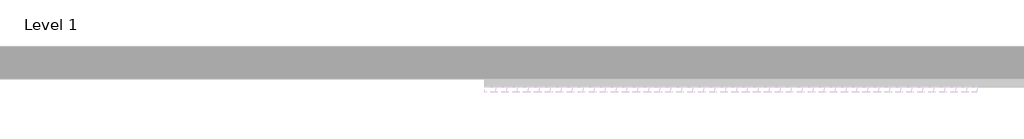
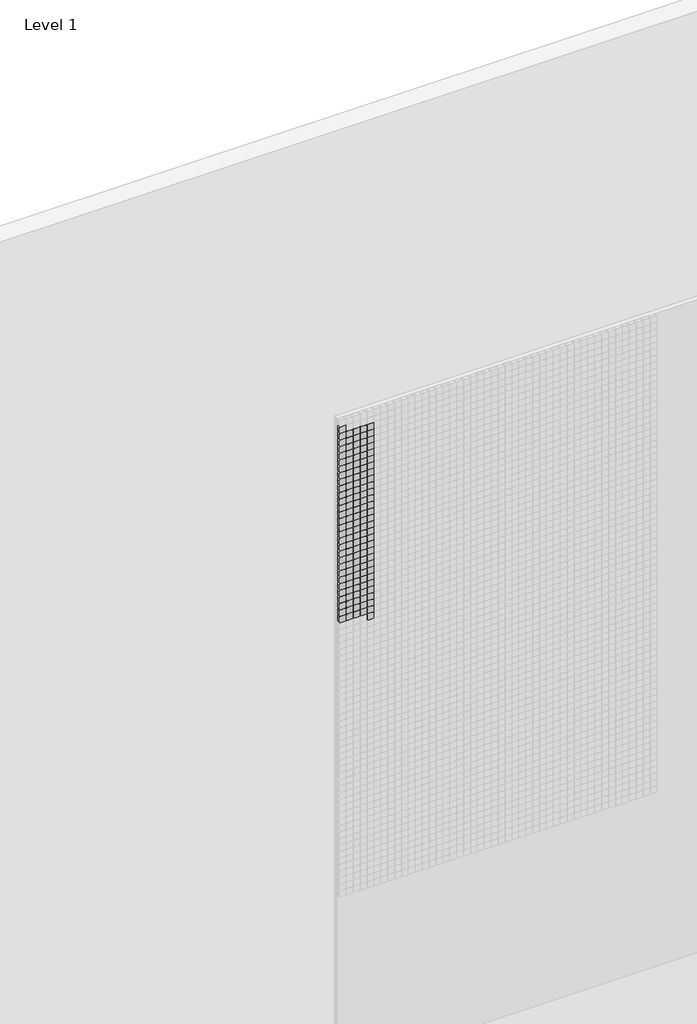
# One storey, part 4 of 71: 147 proxies.
"""IFC4 building model written with IfcOpenShell, lengths in millimetres."""

from ifc_helpers import new_model, si_unit, origin, place, context, project, spatial, transform, mapped, element, save
from components import generic_models_afde289c

model = new_model("IFC4")

# Units and contexts
model_context = context("Model", 3, world=origin())
ifc_project = project(units=[si_unit("LENGTHUNIT", "METRE", prefix="MILLI")], contexts=[model_context])

# Site, building, storey
site = spatial("IfcSite", under=ifc_project)
building = spatial("IfcBuilding", under=site)
storey = spatial("IfcBuildingStorey", under=building, Name="Level 1", Elevation=0.0)

# Proxies
placement = place(None, origin())
generic_models_shape = generic_models_afde289c(model_context)
element("IfcBuildingElementProxy", 1, Name="Pixel_M : Pixel_M", ObjectType="Pixel_M : Pixel_M", at=placement, inside=storey, context=model_context, shape_type="MappedRepresentation", body=[
    mapped(generic_models_shape, transform((4762.4280941, -75.0, 5916.3566215), x_axis=(1.0, 0.0, 0.0), y_axis=(0.0, 0.0, 1.0), z_axis=(0.0, -1.0, 0.0))),
])
element("IfcBuildingElementProxy", 2, Name="Pixel_M : Pixel_M", ObjectType="Pixel_M : Pixel_M", at=placement, inside=storey, context=model_context, shape_type="MappedRepresentation", body=[
    mapped(generic_models_shape, transform((4962.4280941, -75.0, 5866.3566215), x_axis=(1.0, 0.0, 0.0), y_axis=(0.0, 0.0, 1.0), z_axis=(0.0, -1.0, 0.0))),
])
element("IfcBuildingElementProxy", 3, Name="Pixel_M : Pixel_M", ObjectType="Pixel_M : Pixel_M", at=placement, inside=storey, context=model_context, shape_type="MappedRepresentation", body=[
    mapped(generic_models_shape, transform((4912.4280941, -75.0, 5866.3566215), x_axis=(1.0, 0.0, 0.0), y_axis=(0.0, 0.0, 1.0), z_axis=(0.0, -1.0, 0.0))),
])
element("IfcBuildingElementProxy", 4, Name="Pixel_M : Pixel_M", ObjectType="Pixel_M : Pixel_M", at=placement, inside=storey, context=model_context, shape_type="MappedRepresentation", body=[
    mapped(generic_models_shape, transform((4862.4280941, -75.0, 5866.3566215), x_axis=(1.0, 0.0, 0.0), y_axis=(0.0, 0.0, 1.0), z_axis=(0.0, -1.0, 0.0))),
])
element("IfcBuildingElementProxy", 5, Name="Pixel_M : Pixel_M", ObjectType="Pixel_M : Pixel_M", at=placement, inside=storey, context=model_context, shape_type="MappedRepresentation", body=[
    mapped(generic_models_shape, transform((4812.4280941, -75.0, 5866.3566215), x_axis=(1.0, 0.0, 0.0), y_axis=(0.0, 0.0, 1.0), z_axis=(0.0, -1.0, 0.0))),
])
element("IfcBuildingElementProxy", 6, Name="Pixel_M : Pixel_M", ObjectType="Pixel_M : Pixel_M", at=placement, inside=storey, context=model_context, shape_type="MappedRepresentation", body=[
    mapped(generic_models_shape, transform((4762.4280941, -75.0, 5866.3566215), x_axis=(1.0, 0.0, 0.0), y_axis=(0.0, 0.0, 1.0), z_axis=(0.0, -1.0, 0.0))),
])
element("IfcBuildingElementProxy", 7, Name="Pixel_M : Pixel_M", ObjectType="Pixel_M : Pixel_M", at=placement, inside=storey, context=model_context, shape_type="MappedRepresentation", body=[
    mapped(generic_models_shape, transform((4962.4280941, -75.0, 5816.3566215), x_axis=(1.0, 0.0, 0.0), y_axis=(0.0, 0.0, 1.0), z_axis=(0.0, -1.0, 0.0))),
])
element("IfcBuildingElementProxy", 8, Name="Pixel_M : Pixel_M", ObjectType="Pixel_M : Pixel_M", at=placement, inside=storey, context=model_context, shape_type="MappedRepresentation", body=[
    mapped(generic_models_shape, transform((4912.4280941, -75.0, 5816.3566215), x_axis=(1.0, 0.0, 0.0), y_axis=(0.0, 0.0, 1.0), z_axis=(0.0, -1.0, 0.0))),
])
element("IfcBuildingElementProxy", 9, Name="Pixel_M : Pixel_M", ObjectType="Pixel_M : Pixel_M", at=placement, inside=storey, context=model_context, shape_type="MappedRepresentation", body=[
    mapped(generic_models_shape, transform((4862.4280941, -75.0, 5816.3566215), x_axis=(1.0, 0.0, 0.0), y_axis=(0.0, 0.0, 1.0), z_axis=(0.0, -1.0, 0.0))),
])
element("IfcBuildingElementProxy", 10, Name="Pixel_M : Pixel_M", ObjectType="Pixel_M : Pixel_M", at=placement, inside=storey, context=model_context, shape_type="MappedRepresentation", body=[
    mapped(generic_models_shape, transform((4812.4280941, -75.0, 5816.3566215), x_axis=(1.0, 0.0, 0.0), y_axis=(0.0, 0.0, 1.0), z_axis=(0.0, -1.0, 0.0))),
])
element("IfcBuildingElementProxy", 11, Name="Pixel_M : Pixel_M", ObjectType="Pixel_M : Pixel_M", at=placement, inside=storey, context=model_context, shape_type="MappedRepresentation", body=[
    mapped(generic_models_shape, transform((4762.4280941, -75.0, 5816.3566215), x_axis=(1.0, 0.0, 0.0), y_axis=(0.0, 0.0, 1.0), z_axis=(0.0, -1.0, 0.0))),
])
element("IfcBuildingElementProxy", 12, Name="Pixel_M : Pixel_M", ObjectType="Pixel_M : Pixel_M", at=placement, inside=storey, context=model_context, shape_type="MappedRepresentation", body=[
    mapped(generic_models_shape, transform((4962.4280941, -75.0, 5766.3566215), x_axis=(1.0, 0.0, 0.0), y_axis=(0.0, 0.0, 1.0), z_axis=(0.0, -1.0, 0.0))),
])
element("IfcBuildingElementProxy", 13, Name="Pixel_M : Pixel_M", ObjectType="Pixel_M : Pixel_M", at=placement, inside=storey, context=model_context, shape_type="MappedRepresentation", body=[
    mapped(generic_models_shape, transform((4912.4280941, -75.0, 5766.3566215), x_axis=(1.0, 0.0, 0.0), y_axis=(0.0, 0.0, 1.0), z_axis=(0.0, -1.0, 0.0))),
])
element("IfcBuildingElementProxy", 14, Name="Pixel_M : Pixel_M", ObjectType="Pixel_M : Pixel_M", at=placement, inside=storey, context=model_context, shape_type="MappedRepresentation", body=[
    mapped(generic_models_shape, transform((4862.4280941, -75.0, 5766.3566215), x_axis=(1.0, 0.0, 0.0), y_axis=(0.0, 0.0, 1.0), z_axis=(0.0, -1.0, 0.0))),
])
element("IfcBuildingElementProxy", 15, Name="Pixel_M : Pixel_M", ObjectType="Pixel_M : Pixel_M", at=placement, inside=storey, context=model_context, shape_type="MappedRepresentation", body=[
    mapped(generic_models_shape, transform((4812.4280941, -75.0, 5766.3566215), x_axis=(1.0, 0.0, 0.0), y_axis=(0.0, 0.0, 1.0), z_axis=(0.0, -1.0, 0.0))),
])
element("IfcBuildingElementProxy", 16, Name="Pixel_M : Pixel_M", ObjectType="Pixel_M : Pixel_M", at=placement, inside=storey, context=model_context, shape_type="MappedRepresentation", body=[
    mapped(generic_models_shape, transform((4762.4280941, -75.0, 5766.3566215), x_axis=(1.0, 0.0, 0.0), y_axis=(0.0, 0.0, 1.0), z_axis=(0.0, -1.0, 0.0))),
])
element("IfcBuildingElementProxy", 17, Name="Pixel_M : Pixel_M", ObjectType="Pixel_M : Pixel_M", at=placement, inside=storey, context=model_context, shape_type="MappedRepresentation", body=[
    mapped(generic_models_shape, transform((4962.4280941, -75.0, 5716.3566215), x_axis=(1.0, 0.0, 0.0), y_axis=(0.0, 0.0, 1.0), z_axis=(0.0, -1.0, 0.0))),
])
element("IfcBuildingElementProxy", 18, Name="Pixel_M : Pixel_M", ObjectType="Pixel_M : Pixel_M", at=placement, inside=storey, context=model_context, shape_type="MappedRepresentation", body=[
    mapped(generic_models_shape, transform((4912.4280941, -75.0, 5716.3566215), x_axis=(1.0, 0.0, 0.0), y_axis=(0.0, 0.0, 1.0), z_axis=(0.0, -1.0, 0.0))),
])
element("IfcBuildingElementProxy", 19, Name="Pixel_M : Pixel_M", ObjectType="Pixel_M : Pixel_M", at=placement, inside=storey, context=model_context, shape_type="MappedRepresentation", body=[
    mapped(generic_models_shape, transform((4862.4280941, -75.0, 5716.3566215), x_axis=(1.0, 0.0, 0.0), y_axis=(0.0, 0.0, 1.0), z_axis=(0.0, -1.0, 0.0))),
])
element("IfcBuildingElementProxy", 20, Name="Pixel_M : Pixel_M", ObjectType="Pixel_M : Pixel_M", at=placement, inside=storey, context=model_context, shape_type="MappedRepresentation", body=[
    mapped(generic_models_shape, transform((4812.4280941, -75.0, 5716.3566215), x_axis=(1.0, 0.0, 0.0), y_axis=(0.0, 0.0, 1.0), z_axis=(0.0, -1.0, 0.0))),
])
element("IfcBuildingElementProxy", 21, Name="Pixel_M : Pixel_M", ObjectType="Pixel_M : Pixel_M", at=placement, inside=storey, context=model_context, shape_type="MappedRepresentation", body=[
    mapped(generic_models_shape, transform((4762.4280941, -75.0, 5716.3566215), x_axis=(1.0, 0.0, 0.0), y_axis=(0.0, 0.0, 1.0), z_axis=(0.0, -1.0, 0.0))),
])
element("IfcBuildingElementProxy", 22, Name="Pixel_M : Pixel_M", ObjectType="Pixel_M : Pixel_M", at=placement, inside=storey, context=model_context, shape_type="MappedRepresentation", body=[
    mapped(generic_models_shape, transform((4962.4280941, -75.0, 5666.3566215), x_axis=(1.0, 0.0, 0.0), y_axis=(0.0, 0.0, 1.0), z_axis=(0.0, -1.0, 0.0))),
])
element("IfcBuildingElementProxy", 23, Name="Pixel_M : Pixel_M", ObjectType="Pixel_M : Pixel_M", at=placement, inside=storey, context=model_context, shape_type="MappedRepresentation", body=[
    mapped(generic_models_shape, transform((4912.4280941, -75.0, 5666.3566215), x_axis=(1.0, 0.0, 0.0), y_axis=(0.0, 0.0, 1.0), z_axis=(0.0, -1.0, 0.0))),
])
element("IfcBuildingElementProxy", 24, Name="Pixel_M : Pixel_M", ObjectType="Pixel_M : Pixel_M", at=placement, inside=storey, context=model_context, shape_type="MappedRepresentation", body=[
    mapped(generic_models_shape, transform((4862.4280941, -75.0, 5666.3566215), x_axis=(1.0, 0.0, 0.0), y_axis=(0.0, 0.0, 1.0), z_axis=(0.0, -1.0, 0.0))),
])
element("IfcBuildingElementProxy", 25, Name="Pixel_M : Pixel_M", ObjectType="Pixel_M : Pixel_M", at=placement, inside=storey, context=model_context, shape_type="MappedRepresentation", body=[
    mapped(generic_models_shape, transform((4812.4280941, -75.0, 5666.3566215), x_axis=(1.0, 0.0, 0.0), y_axis=(0.0, 0.0, 1.0), z_axis=(0.0, -1.0, 0.0))),
])
element("IfcBuildingElementProxy", 26, Name="Pixel_M : Pixel_M", ObjectType="Pixel_M : Pixel_M", at=placement, inside=storey, context=model_context, shape_type="MappedRepresentation", body=[
    mapped(generic_models_shape, transform((4762.4280941, -75.0, 5666.3566215), x_axis=(1.0, 0.0, 0.0), y_axis=(0.0, 0.0, 1.0), z_axis=(0.0, -1.0, 0.0))),
])
element("IfcBuildingElementProxy", 27, Name="Pixel_M : Pixel_M", ObjectType="Pixel_M : Pixel_M", at=placement, inside=storey, context=model_context, shape_type="MappedRepresentation", body=[
    mapped(generic_models_shape, transform((4962.4280941, -75.0, 5616.3566215), x_axis=(1.0, 0.0, 0.0), y_axis=(0.0, 0.0, 1.0), z_axis=(0.0, -1.0, 0.0))),
])
element("IfcBuildingElementProxy", 28, Name="Pixel_M : Pixel_M", ObjectType="Pixel_M : Pixel_M", at=placement, inside=storey, context=model_context, shape_type="MappedRepresentation", body=[
    mapped(generic_models_shape, transform((4912.4280941, -75.0, 5616.3566215), x_axis=(1.0, 0.0, 0.0), y_axis=(0.0, 0.0, 1.0), z_axis=(0.0, -1.0, 0.0))),
])
element("IfcBuildingElementProxy", 29, Name="Pixel_M : Pixel_M", ObjectType="Pixel_M : Pixel_M", at=placement, inside=storey, context=model_context, shape_type="MappedRepresentation", body=[
    mapped(generic_models_shape, transform((4862.4280941, -75.0, 5616.3566215), x_axis=(1.0, 0.0, 0.0), y_axis=(0.0, 0.0, 1.0), z_axis=(0.0, -1.0, 0.0))),
])
element("IfcBuildingElementProxy", 30, Name="Pixel_M : Pixel_M", ObjectType="Pixel_M : Pixel_M", at=placement, inside=storey, context=model_context, shape_type="MappedRepresentation", body=[
    mapped(generic_models_shape, transform((4812.4280941, -75.0, 5616.3566215), x_axis=(1.0, 0.0, 0.0), y_axis=(0.0, 0.0, 1.0), z_axis=(0.0, -1.0, 0.0))),
])
element("IfcBuildingElementProxy", 31, Name="Pixel_M : Pixel_M", ObjectType="Pixel_M : Pixel_M", at=placement, inside=storey, context=model_context, shape_type="MappedRepresentation", body=[
    mapped(generic_models_shape, transform((4762.4280941, -75.0, 5616.3566215), x_axis=(1.0, 0.0, 0.0), y_axis=(0.0, 0.0, 1.0), z_axis=(0.0, -1.0, 0.0))),
])
element("IfcBuildingElementProxy", 32, Name="Pixel_M : Pixel_M", ObjectType="Pixel_M : Pixel_M", at=placement, inside=storey, context=model_context, shape_type="MappedRepresentation", body=[
    mapped(generic_models_shape, transform((4962.4280941, -75.0, 5566.3566215), x_axis=(1.0, 0.0, 0.0), y_axis=(0.0, 0.0, 1.0), z_axis=(0.0, -1.0, 0.0))),
])
element("IfcBuildingElementProxy", 33, Name="Pixel_M : Pixel_M", ObjectType="Pixel_M : Pixel_M", at=placement, inside=storey, context=model_context, shape_type="MappedRepresentation", body=[
    mapped(generic_models_shape, transform((4912.4280941, -75.0, 5566.3566215), x_axis=(1.0, 0.0, 0.0), y_axis=(0.0, 0.0, 1.0), z_axis=(0.0, -1.0, 0.0))),
])
element("IfcBuildingElementProxy", 34, Name="Pixel_M : Pixel_M", ObjectType="Pixel_M : Pixel_M", at=placement, inside=storey, context=model_context, shape_type="MappedRepresentation", body=[
    mapped(generic_models_shape, transform((4862.4280941, -75.0, 5566.3566215), x_axis=(1.0, 0.0, 0.0), y_axis=(0.0, 0.0, 1.0), z_axis=(0.0, -1.0, 0.0))),
])
element("IfcBuildingElementProxy", 35, Name="Pixel_M : Pixel_M", ObjectType="Pixel_M : Pixel_M", at=placement, inside=storey, context=model_context, shape_type="MappedRepresentation", body=[
    mapped(generic_models_shape, transform((4812.4280941, -75.0, 5566.3566215), x_axis=(1.0, 0.0, 0.0), y_axis=(0.0, 0.0, 1.0), z_axis=(0.0, -1.0, 0.0))),
])
element("IfcBuildingElementProxy", 36, Name="Pixel_M : Pixel_M", ObjectType="Pixel_M : Pixel_M", at=placement, inside=storey, context=model_context, shape_type="MappedRepresentation", body=[
    mapped(generic_models_shape, transform((4762.4280941, -75.0, 5566.3566215), x_axis=(1.0, 0.0, 0.0), y_axis=(0.0, 0.0, 1.0), z_axis=(0.0, -1.0, 0.0))),
])
element("IfcBuildingElementProxy", 37, Name="Pixel_M : Pixel_M", ObjectType="Pixel_M : Pixel_M", at=placement, inside=storey, context=model_context, shape_type="MappedRepresentation", body=[
    mapped(generic_models_shape, transform((4962.4280941, -75.0, 5516.3566215), x_axis=(1.0, 0.0, 0.0), y_axis=(0.0, 0.0, 1.0), z_axis=(0.0, -1.0, 0.0))),
])
element("IfcBuildingElementProxy", 38, Name="Pixel_M : Pixel_M", ObjectType="Pixel_M : Pixel_M", at=placement, inside=storey, context=model_context, shape_type="MappedRepresentation", body=[
    mapped(generic_models_shape, transform((4912.4280941, -75.0, 5516.3566215), x_axis=(1.0, 0.0, 0.0), y_axis=(0.0, 0.0, 1.0), z_axis=(0.0, -1.0, 0.0))),
])
element("IfcBuildingElementProxy", 39, Name="Pixel_M : Pixel_M", ObjectType="Pixel_M : Pixel_M", at=placement, inside=storey, context=model_context, shape_type="MappedRepresentation", body=[
    mapped(generic_models_shape, transform((4862.4280941, -75.0, 5516.3566215), x_axis=(1.0, 0.0, 0.0), y_axis=(0.0, 0.0, 1.0), z_axis=(0.0, -1.0, 0.0))),
])
element("IfcBuildingElementProxy", 40, Name="Pixel_M : Pixel_M", ObjectType="Pixel_M : Pixel_M", at=placement, inside=storey, context=model_context, shape_type="MappedRepresentation", body=[
    mapped(generic_models_shape, transform((4812.4280941, -75.0, 5516.3566215), x_axis=(1.0, 0.0, 0.0), y_axis=(0.0, 0.0, 1.0), z_axis=(0.0, -1.0, 0.0))),
])
element("IfcBuildingElementProxy", 41, Name="Pixel_M : Pixel_M", ObjectType="Pixel_M : Pixel_M", at=placement, inside=storey, context=model_context, shape_type="MappedRepresentation", body=[
    mapped(generic_models_shape, transform((4762.4280941, -75.0, 5516.3566215), x_axis=(1.0, 0.0, 0.0), y_axis=(0.0, 0.0, 1.0), z_axis=(0.0, -1.0, 0.0))),
])
element("IfcBuildingElementProxy", 42, Name="Pixel_M : Pixel_M", ObjectType="Pixel_M : Pixel_M", at=placement, inside=storey, context=model_context, shape_type="MappedRepresentation", body=[
    mapped(generic_models_shape, transform((4962.4280941, -75.0, 5466.3566215), x_axis=(1.0, 0.0, 0.0), y_axis=(0.0, 0.0, 1.0), z_axis=(0.0, -1.0, 0.0))),
])
element("IfcBuildingElementProxy", 43, Name="Pixel_M : Pixel_M", ObjectType="Pixel_M : Pixel_M", at=placement, inside=storey, context=model_context, shape_type="MappedRepresentation", body=[
    mapped(generic_models_shape, transform((4912.4280941, -75.0, 5466.3566215), x_axis=(1.0, 0.0, 0.0), y_axis=(0.0, 0.0, 1.0), z_axis=(0.0, -1.0, 0.0))),
])
element("IfcBuildingElementProxy", 44, Name="Pixel_M : Pixel_M", ObjectType="Pixel_M : Pixel_M", at=placement, inside=storey, context=model_context, shape_type="MappedRepresentation", body=[
    mapped(generic_models_shape, transform((4862.4280941, -75.0, 5466.3566215), x_axis=(1.0, 0.0, 0.0), y_axis=(0.0, 0.0, 1.0), z_axis=(0.0, -1.0, 0.0))),
])
element("IfcBuildingElementProxy", 45, Name="Pixel_M : Pixel_M", ObjectType="Pixel_M : Pixel_M", at=placement, inside=storey, context=model_context, shape_type="MappedRepresentation", body=[
    mapped(generic_models_shape, transform((4812.4280941, -75.0, 5466.3566215), x_axis=(1.0, 0.0, 0.0), y_axis=(0.0, 0.0, 1.0), z_axis=(0.0, -1.0, 0.0))),
])
element("IfcBuildingElementProxy", 46, Name="Pixel_M : Pixel_M", ObjectType="Pixel_M : Pixel_M", at=placement, inside=storey, context=model_context, shape_type="MappedRepresentation", body=[
    mapped(generic_models_shape, transform((4762.4280941, -75.0, 5466.3566215), x_axis=(1.0, 0.0, 0.0), y_axis=(0.0, 0.0, 1.0), z_axis=(0.0, -1.0, 0.0))),
])
element("IfcBuildingElementProxy", 47, Name="Pixel_M : Pixel_M", ObjectType="Pixel_M : Pixel_M", at=placement, inside=storey, context=model_context, shape_type="MappedRepresentation", body=[
    mapped(generic_models_shape, transform((4962.4280941, -75.0, 5416.3566215), x_axis=(1.0, 0.0, 0.0), y_axis=(0.0, 0.0, 1.0), z_axis=(0.0, -1.0, 0.0))),
])
element("IfcBuildingElementProxy", 48, Name="Pixel_M : Pixel_M", ObjectType="Pixel_M : Pixel_M", at=placement, inside=storey, context=model_context, shape_type="MappedRepresentation", body=[
    mapped(generic_models_shape, transform((4912.4280941, -75.0, 5416.3566215), x_axis=(1.0, 0.0, 0.0), y_axis=(0.0, 0.0, 1.0), z_axis=(0.0, -1.0, 0.0))),
])
element("IfcBuildingElementProxy", 49, Name="Pixel_M : Pixel_M", ObjectType="Pixel_M : Pixel_M", at=placement, inside=storey, context=model_context, shape_type="MappedRepresentation", body=[
    mapped(generic_models_shape, transform((4862.4280941, -75.0, 5416.3566215), x_axis=(1.0, 0.0, 0.0), y_axis=(0.0, 0.0, 1.0), z_axis=(0.0, -1.0, 0.0))),
])
element("IfcBuildingElementProxy", 50, Name="Pixel_M : Pixel_M", ObjectType="Pixel_M : Pixel_M", at=placement, inside=storey, context=model_context, shape_type="MappedRepresentation", body=[
    mapped(generic_models_shape, transform((4812.4280941, -75.0, 5416.3566215), x_axis=(1.0, 0.0, 0.0), y_axis=(0.0, 0.0, 1.0), z_axis=(0.0, -1.0, 0.0))),
])
element("IfcBuildingElementProxy", 51, Name="Pixel_M : Pixel_M", ObjectType="Pixel_M : Pixel_M", at=placement, inside=storey, context=model_context, shape_type="MappedRepresentation", body=[
    mapped(generic_models_shape, transform((4762.4280941, -75.0, 5416.3566215), x_axis=(1.0, 0.0, 0.0), y_axis=(0.0, 0.0, 1.0), z_axis=(0.0, -1.0, 0.0))),
])
element("IfcBuildingElementProxy", 52, Name="Pixel_M : Pixel_M", ObjectType="Pixel_M : Pixel_M", at=placement, inside=storey, context=model_context, shape_type="MappedRepresentation", body=[
    mapped(generic_models_shape, transform((4962.4280941, -75.0, 5366.3566215), x_axis=(1.0, 0.0, 0.0), y_axis=(0.0, 0.0, 1.0), z_axis=(0.0, -1.0, 0.0))),
])
element("IfcBuildingElementProxy", 53, Name="Pixel_M : Pixel_M", ObjectType="Pixel_M : Pixel_M", at=placement, inside=storey, context=model_context, shape_type="MappedRepresentation", body=[
    mapped(generic_models_shape, transform((4912.4280941, -75.0, 5366.3566215), x_axis=(1.0, 0.0, 0.0), y_axis=(0.0, 0.0, 1.0), z_axis=(0.0, -1.0, 0.0))),
])
element("IfcBuildingElementProxy", 54, Name="Pixel_M : Pixel_M", ObjectType="Pixel_M : Pixel_M", at=placement, inside=storey, context=model_context, shape_type="MappedRepresentation", body=[
    mapped(generic_models_shape, transform((4862.4280941, -75.0, 5366.3566215), x_axis=(1.0, 0.0, 0.0), y_axis=(0.0, 0.0, 1.0), z_axis=(0.0, -1.0, 0.0))),
])
element("IfcBuildingElementProxy", 55, Name="Pixel_M : Pixel_M", ObjectType="Pixel_M : Pixel_M", at=placement, inside=storey, context=model_context, shape_type="MappedRepresentation", body=[
    mapped(generic_models_shape, transform((4812.4280941, -75.0, 5366.3566215), x_axis=(1.0, 0.0, 0.0), y_axis=(0.0, 0.0, 1.0), z_axis=(0.0, -1.0, 0.0))),
])
element("IfcBuildingElementProxy", 56, Name="Pixel_M : Pixel_M", ObjectType="Pixel_M : Pixel_M", at=placement, inside=storey, context=model_context, shape_type="MappedRepresentation", body=[
    mapped(generic_models_shape, transform((4762.4280941, -75.0, 5366.3566215), x_axis=(1.0, 0.0, 0.0), y_axis=(0.0, 0.0, 1.0), z_axis=(0.0, -1.0, 0.0))),
])
element("IfcBuildingElementProxy", 57, Name="Pixel_M : Pixel_M", ObjectType="Pixel_M : Pixel_M", at=placement, inside=storey, context=model_context, shape_type="MappedRepresentation", body=[
    mapped(generic_models_shape, transform((4962.4280941, -75.0, 5316.3566215), x_axis=(1.0, 0.0, 0.0), y_axis=(0.0, 0.0, 1.0), z_axis=(0.0, -1.0, 0.0))),
])
element("IfcBuildingElementProxy", 58, Name="Pixel_M : Pixel_M", ObjectType="Pixel_M : Pixel_M", at=placement, inside=storey, context=model_context, shape_type="MappedRepresentation", body=[
    mapped(generic_models_shape, transform((4912.4280941, -75.0, 5316.3566215), x_axis=(1.0, 0.0, 0.0), y_axis=(0.0, 0.0, 1.0), z_axis=(0.0, -1.0, 0.0))),
])
element("IfcBuildingElementProxy", 59, Name="Pixel_M : Pixel_M", ObjectType="Pixel_M : Pixel_M", at=placement, inside=storey, context=model_context, shape_type="MappedRepresentation", body=[
    mapped(generic_models_shape, transform((4862.4280941, -75.0, 5316.3566215), x_axis=(1.0, 0.0, 0.0), y_axis=(0.0, 0.0, 1.0), z_axis=(0.0, -1.0, 0.0))),
])
element("IfcBuildingElementProxy", 60, Name="Pixel_M : Pixel_M", ObjectType="Pixel_M : Pixel_M", at=placement, inside=storey, context=model_context, shape_type="MappedRepresentation", body=[
    mapped(generic_models_shape, transform((4812.4280941, -75.0, 5316.3566215), x_axis=(1.0, 0.0, 0.0), y_axis=(0.0, 0.0, 1.0), z_axis=(0.0, -1.0, 0.0))),
])
element("IfcBuildingElementProxy", 61, Name="Pixel_M : Pixel_M", ObjectType="Pixel_M : Pixel_M", at=placement, inside=storey, context=model_context, shape_type="MappedRepresentation", body=[
    mapped(generic_models_shape, transform((4762.4280941, -75.0, 5316.3566215), x_axis=(1.0, 0.0, 0.0), y_axis=(0.0, 0.0, 1.0), z_axis=(0.0, -1.0, 0.0))),
])
element("IfcBuildingElementProxy", 62, Name="Pixel_M : Pixel_M", ObjectType="Pixel_M : Pixel_M", at=placement, inside=storey, context=model_context, shape_type="MappedRepresentation", body=[
    mapped(generic_models_shape, transform((4962.4280941, -75.0, 5266.3566215), x_axis=(1.0, 0.0, 0.0), y_axis=(0.0, 0.0, 1.0), z_axis=(0.0, -1.0, 0.0))),
])
element("IfcBuildingElementProxy", 63, Name="Pixel_M : Pixel_M", ObjectType="Pixel_M : Pixel_M", at=placement, inside=storey, context=model_context, shape_type="MappedRepresentation", body=[
    mapped(generic_models_shape, transform((4912.4280941, -75.0, 5266.3566215), x_axis=(1.0, 0.0, 0.0), y_axis=(0.0, 0.0, 1.0), z_axis=(0.0, -1.0, 0.0))),
])
element("IfcBuildingElementProxy", 64, Name="Pixel_M : Pixel_M", ObjectType="Pixel_M : Pixel_M", at=placement, inside=storey, context=model_context, shape_type="MappedRepresentation", body=[
    mapped(generic_models_shape, transform((4862.4280941, -75.0, 5266.3566215), x_axis=(1.0, 0.0, 0.0), y_axis=(0.0, 0.0, 1.0), z_axis=(0.0, -1.0, 0.0))),
])
element("IfcBuildingElementProxy", 65, Name="Pixel_M : Pixel_M", ObjectType="Pixel_M : Pixel_M", at=placement, inside=storey, context=model_context, shape_type="MappedRepresentation", body=[
    mapped(generic_models_shape, transform((4812.4280941, -75.0, 5266.3566215), x_axis=(1.0, 0.0, 0.0), y_axis=(0.0, 0.0, 1.0), z_axis=(0.0, -1.0, 0.0))),
])
element("IfcBuildingElementProxy", 66, Name="Pixel_M : Pixel_M", ObjectType="Pixel_M : Pixel_M", at=placement, inside=storey, context=model_context, shape_type="MappedRepresentation", body=[
    mapped(generic_models_shape, transform((4762.4280941, -75.0, 5266.3566215), x_axis=(1.0, 0.0, 0.0), y_axis=(0.0, 0.0, 1.0), z_axis=(0.0, -1.0, 0.0))),
])
element("IfcBuildingElementProxy", 67, Name="Pixel_M : Pixel_M", ObjectType="Pixel_M : Pixel_M", at=placement, inside=storey, context=model_context, shape_type="MappedRepresentation", body=[
    mapped(generic_models_shape, transform((4962.4280941, -75.0, 5216.3566215), x_axis=(1.0, 0.0, 0.0), y_axis=(0.0, 0.0, 1.0), z_axis=(0.0, -1.0, 0.0))),
])
element("IfcBuildingElementProxy", 68, Name="Pixel_M : Pixel_M", ObjectType="Pixel_M : Pixel_M", at=placement, inside=storey, context=model_context, shape_type="MappedRepresentation", body=[
    mapped(generic_models_shape, transform((4912.4280941, -75.0, 5216.3566215), x_axis=(1.0, 0.0, 0.0), y_axis=(0.0, 0.0, 1.0), z_axis=(0.0, -1.0, 0.0))),
])
element("IfcBuildingElementProxy", 69, Name="Pixel_M : Pixel_M", ObjectType="Pixel_M : Pixel_M", at=placement, inside=storey, context=model_context, shape_type="MappedRepresentation", body=[
    mapped(generic_models_shape, transform((4862.4280941, -75.0, 5216.3566215), x_axis=(1.0, 0.0, 0.0), y_axis=(0.0, 0.0, 1.0), z_axis=(0.0, -1.0, 0.0))),
])
element("IfcBuildingElementProxy", 70, Name="Pixel_M : Pixel_M", ObjectType="Pixel_M : Pixel_M", at=placement, inside=storey, context=model_context, shape_type="MappedRepresentation", body=[
    mapped(generic_models_shape, transform((4812.4280941, -75.0, 5216.3566215), x_axis=(1.0, 0.0, 0.0), y_axis=(0.0, 0.0, 1.0), z_axis=(0.0, -1.0, 0.0))),
])
element("IfcBuildingElementProxy", 71, Name="Pixel_M : Pixel_M", ObjectType="Pixel_M : Pixel_M", at=placement, inside=storey, context=model_context, shape_type="MappedRepresentation", body=[
    mapped(generic_models_shape, transform((4762.4280941, -75.0, 5216.3566215), x_axis=(1.0, 0.0, 0.0), y_axis=(0.0, 0.0, 1.0), z_axis=(0.0, -1.0, 0.0))),
])
element("IfcBuildingElementProxy", 72, Name="Pixel_M : Pixel_M", ObjectType="Pixel_M : Pixel_M", at=placement, inside=storey, context=model_context, shape_type="MappedRepresentation", body=[
    mapped(generic_models_shape, transform((4962.4280941, -75.0, 5166.3566215), x_axis=(1.0, 0.0, 0.0), y_axis=(0.0, 0.0, 1.0), z_axis=(0.0, -1.0, 0.0))),
])
element("IfcBuildingElementProxy", 73, Name="Pixel_M : Pixel_M", ObjectType="Pixel_M : Pixel_M", at=placement, inside=storey, context=model_context, shape_type="MappedRepresentation", body=[
    mapped(generic_models_shape, transform((4912.4280941, -75.0, 5166.3566215), x_axis=(1.0, 0.0, 0.0), y_axis=(0.0, 0.0, 1.0), z_axis=(0.0, -1.0, 0.0))),
])
element("IfcBuildingElementProxy", 74, Name="Pixel_M : Pixel_M", ObjectType="Pixel_M : Pixel_M", at=placement, inside=storey, context=model_context, shape_type="MappedRepresentation", body=[
    mapped(generic_models_shape, transform((4862.4280941, -75.0, 5166.3566215), x_axis=(1.0, 0.0, 0.0), y_axis=(0.0, 0.0, 1.0), z_axis=(0.0, -1.0, 0.0))),
])
element("IfcBuildingElementProxy", 75, Name="Pixel_M : Pixel_M", ObjectType="Pixel_M : Pixel_M", at=placement, inside=storey, context=model_context, shape_type="MappedRepresentation", body=[
    mapped(generic_models_shape, transform((4812.4280941, -75.0, 5166.3566215), x_axis=(1.0, 0.0, 0.0), y_axis=(0.0, 0.0, 1.0), z_axis=(0.0, -1.0, 0.0))),
])
element("IfcBuildingElementProxy", 76, Name="Pixel_M : Pixel_M", ObjectType="Pixel_M : Pixel_M", at=placement, inside=storey, context=model_context, shape_type="MappedRepresentation", body=[
    mapped(generic_models_shape, transform((4762.4280941, -75.0, 5166.3566215), x_axis=(1.0, 0.0, 0.0), y_axis=(0.0, 0.0, 1.0), z_axis=(0.0, -1.0, 0.0))),
])
element("IfcBuildingElementProxy", 77, Name="Pixel_M : Pixel_M", ObjectType="Pixel_M : Pixel_M", at=placement, inside=storey, context=model_context, shape_type="MappedRepresentation", body=[
    mapped(generic_models_shape, transform((4962.4280941, -75.0, 5116.3566215), x_axis=(1.0, 0.0, 0.0), y_axis=(0.0, 0.0, 1.0), z_axis=(0.0, -1.0, 0.0))),
])
element("IfcBuildingElementProxy", 78, Name="Pixel_M : Pixel_M", ObjectType="Pixel_M : Pixel_M", at=placement, inside=storey, context=model_context, shape_type="MappedRepresentation", body=[
    mapped(generic_models_shape, transform((4912.4280941, -75.0, 5116.3566215), x_axis=(1.0, 0.0, 0.0), y_axis=(0.0, 0.0, 1.0), z_axis=(0.0, -1.0, 0.0))),
])
element("IfcBuildingElementProxy", 79, Name="Pixel_M : Pixel_M", ObjectType="Pixel_M : Pixel_M", at=placement, inside=storey, context=model_context, shape_type="MappedRepresentation", body=[
    mapped(generic_models_shape, transform((4862.4280941, -75.0, 5116.3566215), x_axis=(1.0, 0.0, 0.0), y_axis=(0.0, 0.0, 1.0), z_axis=(0.0, -1.0, 0.0))),
])
element("IfcBuildingElementProxy", 80, Name="Pixel_M : Pixel_M", ObjectType="Pixel_M : Pixel_M", at=placement, inside=storey, context=model_context, shape_type="MappedRepresentation", body=[
    mapped(generic_models_shape, transform((4812.4280941, -75.0, 5116.3566215), x_axis=(1.0, 0.0, 0.0), y_axis=(0.0, 0.0, 1.0), z_axis=(0.0, -1.0, 0.0))),
])
element("IfcBuildingElementProxy", 81, Name="Pixel_M : Pixel_M", ObjectType="Pixel_M : Pixel_M", at=placement, inside=storey, context=model_context, shape_type="MappedRepresentation", body=[
    mapped(generic_models_shape, transform((4762.4280941, -75.0, 5116.3566215), x_axis=(1.0, 0.0, 0.0), y_axis=(0.0, 0.0, 1.0), z_axis=(0.0, -1.0, 0.0))),
])
element("IfcBuildingElementProxy", 82, Name="Pixel_M : Pixel_M", ObjectType="Pixel_M : Pixel_M", at=placement, inside=storey, context=model_context, shape_type="MappedRepresentation", body=[
    mapped(generic_models_shape, transform((4962.4280941, -75.0, 5066.3566215), x_axis=(1.0, 0.0, 0.0), y_axis=(0.0, 0.0, 1.0), z_axis=(0.0, -1.0, 0.0))),
])
element("IfcBuildingElementProxy", 83, Name="Pixel_M : Pixel_M", ObjectType="Pixel_M : Pixel_M", at=placement, inside=storey, context=model_context, shape_type="MappedRepresentation", body=[
    mapped(generic_models_shape, transform((4912.4280941, -75.0, 5066.3566215), x_axis=(1.0, 0.0, 0.0), y_axis=(0.0, 0.0, 1.0), z_axis=(0.0, -1.0, 0.0))),
])
element("IfcBuildingElementProxy", 84, Name="Pixel_M : Pixel_M", ObjectType="Pixel_M : Pixel_M", at=placement, inside=storey, context=model_context, shape_type="MappedRepresentation", body=[
    mapped(generic_models_shape, transform((4862.4280941, -75.0, 5066.3566215), x_axis=(1.0, 0.0, 0.0), y_axis=(0.0, 0.0, 1.0), z_axis=(0.0, -1.0, 0.0))),
])
element("IfcBuildingElementProxy", 85, Name="Pixel_M : Pixel_M", ObjectType="Pixel_M : Pixel_M", at=placement, inside=storey, context=model_context, shape_type="MappedRepresentation", body=[
    mapped(generic_models_shape, transform((4812.4280941, -75.0, 5066.3566215), x_axis=(1.0, 0.0, 0.0), y_axis=(0.0, 0.0, 1.0), z_axis=(0.0, -1.0, 0.0))),
])
element("IfcBuildingElementProxy", 86, Name="Pixel_M : Pixel_M", ObjectType="Pixel_M : Pixel_M", at=placement, inside=storey, context=model_context, shape_type="MappedRepresentation", body=[
    mapped(generic_models_shape, transform((4762.4280941, -75.0, 5066.3566215), x_axis=(1.0, 0.0, 0.0), y_axis=(0.0, 0.0, 1.0), z_axis=(0.0, -1.0, 0.0))),
])
element("IfcBuildingElementProxy", 87, Name="Pixel_M : Pixel_M", ObjectType="Pixel_M : Pixel_M", at=placement, inside=storey, context=model_context, shape_type="MappedRepresentation", body=[
    mapped(generic_models_shape, transform((4962.4280941, -75.0, 5016.3566215), x_axis=(1.0, 0.0, 0.0), y_axis=(0.0, 0.0, 1.0), z_axis=(0.0, -1.0, 0.0))),
])
element("IfcBuildingElementProxy", 88, Name="Pixel_M : Pixel_M", ObjectType="Pixel_M : Pixel_M", at=placement, inside=storey, context=model_context, shape_type="MappedRepresentation", body=[
    mapped(generic_models_shape, transform((4912.4280941, -75.0, 5016.3566215), x_axis=(1.0, 0.0, 0.0), y_axis=(0.0, 0.0, 1.0), z_axis=(0.0, -1.0, 0.0))),
])
element("IfcBuildingElementProxy", 89, Name="Pixel_M : Pixel_M", ObjectType="Pixel_M : Pixel_M", at=placement, inside=storey, context=model_context, shape_type="MappedRepresentation", body=[
    mapped(generic_models_shape, transform((4862.4280941, -75.0, 5016.3566215), x_axis=(1.0, 0.0, 0.0), y_axis=(0.0, 0.0, 1.0), z_axis=(0.0, -1.0, 0.0))),
])
element("IfcBuildingElementProxy", 90, Name="Pixel_M : Pixel_M", ObjectType="Pixel_M : Pixel_M", at=placement, inside=storey, context=model_context, shape_type="MappedRepresentation", body=[
    mapped(generic_models_shape, transform((4812.4280941, -75.0, 5016.3566215), x_axis=(1.0, 0.0, 0.0), y_axis=(0.0, 0.0, 1.0), z_axis=(0.0, -1.0, 0.0))),
])
element("IfcBuildingElementProxy", 91, Name="Pixel_M : Pixel_M", ObjectType="Pixel_M : Pixel_M", at=placement, inside=storey, context=model_context, shape_type="MappedRepresentation", body=[
    mapped(generic_models_shape, transform((4762.4280941, -75.0, 5016.3566215), x_axis=(1.0, 0.0, 0.0), y_axis=(0.0, 0.0, 1.0), z_axis=(0.0, -1.0, 0.0))),
])
element("IfcBuildingElementProxy", 92, Name="Pixel_M : Pixel_M", ObjectType="Pixel_M : Pixel_M", at=placement, inside=storey, context=model_context, shape_type="MappedRepresentation", body=[
    mapped(generic_models_shape, transform((4962.4280941, -75.0, 4966.3566215), x_axis=(1.0, 0.0, 0.0), y_axis=(0.0, 0.0, 1.0), z_axis=(0.0, -1.0, 0.0))),
])
element("IfcBuildingElementProxy", 93, Name="Pixel_M : Pixel_M", ObjectType="Pixel_M : Pixel_M", at=placement, inside=storey, context=model_context, shape_type="MappedRepresentation", body=[
    mapped(generic_models_shape, transform((4912.4280941, -75.0, 4966.3566215), x_axis=(1.0, 0.0, 0.0), y_axis=(0.0, 0.0, 1.0), z_axis=(0.0, -1.0, 0.0))),
])
element("IfcBuildingElementProxy", 94, Name="Pixel_M : Pixel_M", ObjectType="Pixel_M : Pixel_M", at=placement, inside=storey, context=model_context, shape_type="MappedRepresentation", body=[
    mapped(generic_models_shape, transform((4862.4280941, -75.0, 4966.3566215), x_axis=(1.0, 0.0, 0.0), y_axis=(0.0, 0.0, 1.0), z_axis=(0.0, -1.0, 0.0))),
])
element("IfcBuildingElementProxy", 95, Name="Pixel_M : Pixel_M", ObjectType="Pixel_M : Pixel_M", at=placement, inside=storey, context=model_context, shape_type="MappedRepresentation", body=[
    mapped(generic_models_shape, transform((4812.4280941, -75.0, 4966.3566215), x_axis=(1.0, 0.0, 0.0), y_axis=(0.0, 0.0, 1.0), z_axis=(0.0, -1.0, 0.0))),
])
element("IfcBuildingElementProxy", 96, Name="Pixel_M : Pixel_M", ObjectType="Pixel_M : Pixel_M", at=placement, inside=storey, context=model_context, shape_type="MappedRepresentation", body=[
    mapped(generic_models_shape, transform((4762.4280941, -75.0, 4966.3566215), x_axis=(1.0, 0.0, 0.0), y_axis=(0.0, 0.0, 1.0), z_axis=(0.0, -1.0, 0.0))),
])
element("IfcBuildingElementProxy", 97, Name="Pixel_M : Pixel_M", ObjectType="Pixel_M : Pixel_M", at=placement, inside=storey, context=model_context, shape_type="MappedRepresentation", body=[
    mapped(generic_models_shape, transform((4962.4280941, -75.0, 4916.3566215), x_axis=(1.0, 0.0, 0.0), y_axis=(0.0, 0.0, 1.0), z_axis=(0.0, -1.0, 0.0))),
])
element("IfcBuildingElementProxy", 98, Name="Pixel_M : Pixel_M", ObjectType="Pixel_M : Pixel_M", at=placement, inside=storey, context=model_context, shape_type="MappedRepresentation", body=[
    mapped(generic_models_shape, transform((4912.4280941, -75.0, 4916.3566215), x_axis=(1.0, 0.0, 0.0), y_axis=(0.0, 0.0, 1.0), z_axis=(0.0, -1.0, 0.0))),
])
element("IfcBuildingElementProxy", 99, Name="Pixel_M : Pixel_M", ObjectType="Pixel_M : Pixel_M", at=placement, inside=storey, context=model_context, shape_type="MappedRepresentation", body=[
    mapped(generic_models_shape, transform((4862.4280941, -75.0, 4916.3566215), x_axis=(1.0, 0.0, 0.0), y_axis=(0.0, 0.0, 1.0), z_axis=(0.0, -1.0, 0.0))),
])
element("IfcBuildingElementProxy", 100, Name="Pixel_M : Pixel_M", ObjectType="Pixel_M : Pixel_M", at=placement, inside=storey, context=model_context, shape_type="MappedRepresentation", body=[
    mapped(generic_models_shape, transform((4812.4280941, -75.0, 4916.3566215), x_axis=(1.0, 0.0, 0.0), y_axis=(0.0, 0.0, 1.0), z_axis=(0.0, -1.0, 0.0))),
])
element("IfcBuildingElementProxy", 101, Name="Pixel_M : Pixel_M", ObjectType="Pixel_M : Pixel_M", at=placement, inside=storey, context=model_context, shape_type="MappedRepresentation", body=[
    mapped(generic_models_shape, transform((4762.4280941, -75.0, 4916.3566215), x_axis=(1.0, 0.0, 0.0), y_axis=(0.0, 0.0, 1.0), z_axis=(0.0, -1.0, 0.0))),
])
element("IfcBuildingElementProxy", 102, Name="Pixel_M : Pixel_M", ObjectType="Pixel_M : Pixel_M", at=placement, inside=storey, context=model_context, shape_type="MappedRepresentation", body=[
    mapped(generic_models_shape, transform((4962.4280941, -75.0, 4866.3566215), x_axis=(1.0, 0.0, 0.0), y_axis=(0.0, 0.0, 1.0), z_axis=(0.0, -1.0, 0.0))),
])
element("IfcBuildingElementProxy", 103, Name="Pixel_M : Pixel_M", ObjectType="Pixel_M : Pixel_M", at=placement, inside=storey, context=model_context, shape_type="MappedRepresentation", body=[
    mapped(generic_models_shape, transform((4912.4280941, -75.0, 4866.3566215), x_axis=(1.0, 0.0, 0.0), y_axis=(0.0, 0.0, 1.0), z_axis=(0.0, -1.0, 0.0))),
])
element("IfcBuildingElementProxy", 104, Name="Pixel_M : Pixel_M", ObjectType="Pixel_M : Pixel_M", at=placement, inside=storey, context=model_context, shape_type="MappedRepresentation", body=[
    mapped(generic_models_shape, transform((4862.4280941, -75.0, 4866.3566215), x_axis=(1.0, 0.0, 0.0), y_axis=(0.0, 0.0, 1.0), z_axis=(0.0, -1.0, 0.0))),
])
element("IfcBuildingElementProxy", 105, Name="Pixel_M : Pixel_M", ObjectType="Pixel_M : Pixel_M", at=placement, inside=storey, context=model_context, shape_type="MappedRepresentation", body=[
    mapped(generic_models_shape, transform((4812.4280941, -75.0, 4866.3566215), x_axis=(1.0, 0.0, 0.0), y_axis=(0.0, 0.0, 1.0), z_axis=(0.0, -1.0, 0.0))),
])
element("IfcBuildingElementProxy", 106, Name="Pixel_M : Pixel_M", ObjectType="Pixel_M : Pixel_M", at=placement, inside=storey, context=model_context, shape_type="MappedRepresentation", body=[
    mapped(generic_models_shape, transform((4762.4280941, -75.0, 4866.3566215), x_axis=(1.0, 0.0, 0.0), y_axis=(0.0, 0.0, 1.0), z_axis=(0.0, -1.0, 0.0))),
])
element("IfcBuildingElementProxy", 107, Name="Pixel_M : Pixel_M", ObjectType="Pixel_M : Pixel_M", at=placement, inside=storey, context=model_context, shape_type="MappedRepresentation", body=[
    mapped(generic_models_shape, transform((4962.4280941, -75.0, 4816.3566215), x_axis=(1.0, 0.0, 0.0), y_axis=(0.0, 0.0, 1.0), z_axis=(0.0, -1.0, 0.0))),
])
element("IfcBuildingElementProxy", 108, Name="Pixel_M : Pixel_M", ObjectType="Pixel_M : Pixel_M", at=placement, inside=storey, context=model_context, shape_type="MappedRepresentation", body=[
    mapped(generic_models_shape, transform((4912.4280941, -75.0, 4816.3566215), x_axis=(1.0, 0.0, 0.0), y_axis=(0.0, 0.0, 1.0), z_axis=(0.0, -1.0, 0.0))),
])
element("IfcBuildingElementProxy", 109, Name="Pixel_M : Pixel_M", ObjectType="Pixel_M : Pixel_M", at=placement, inside=storey, context=model_context, shape_type="MappedRepresentation", body=[
    mapped(generic_models_shape, transform((4862.4280941, -75.0, 4816.3566215), x_axis=(1.0, 0.0, 0.0), y_axis=(0.0, 0.0, 1.0), z_axis=(0.0, -1.0, 0.0))),
])
element("IfcBuildingElementProxy", 110, Name="Pixel_M : Pixel_M", ObjectType="Pixel_M : Pixel_M", at=placement, inside=storey, context=model_context, shape_type="MappedRepresentation", body=[
    mapped(generic_models_shape, transform((4812.4280941, -75.0, 4816.3566215), x_axis=(1.0, 0.0, 0.0), y_axis=(0.0, 0.0, 1.0), z_axis=(0.0, -1.0, 0.0))),
])
element("IfcBuildingElementProxy", 111, Name="Pixel_M : Pixel_M", ObjectType="Pixel_M : Pixel_M", at=placement, inside=storey, context=model_context, shape_type="MappedRepresentation", body=[
    mapped(generic_models_shape, transform((4762.4280941, -75.0, 4816.3566215), x_axis=(1.0, 0.0, 0.0), y_axis=(0.0, 0.0, 1.0), z_axis=(0.0, -1.0, 0.0))),
])
element("IfcBuildingElementProxy", 112, Name="Pixel_M : Pixel_M", ObjectType="Pixel_M : Pixel_M", at=placement, inside=storey, context=model_context, shape_type="MappedRepresentation", body=[
    mapped(generic_models_shape, transform((4962.4280941, -75.0, 4766.3566215), x_axis=(1.0, 0.0, 0.0), y_axis=(0.0, 0.0, 1.0), z_axis=(0.0, -1.0, 0.0))),
])
element("IfcBuildingElementProxy", 113, Name="Pixel_M : Pixel_M", ObjectType="Pixel_M : Pixel_M", at=placement, inside=storey, context=model_context, shape_type="MappedRepresentation", body=[
    mapped(generic_models_shape, transform((4912.4280941, -75.0, 4766.3566215), x_axis=(1.0, 0.0, 0.0), y_axis=(0.0, 0.0, 1.0), z_axis=(0.0, -1.0, 0.0))),
])
element("IfcBuildingElementProxy", 114, Name="Pixel_M : Pixel_M", ObjectType="Pixel_M : Pixel_M", at=placement, inside=storey, context=model_context, shape_type="MappedRepresentation", body=[
    mapped(generic_models_shape, transform((4862.4280941, -75.0, 4766.3566215), x_axis=(1.0, 0.0, 0.0), y_axis=(0.0, 0.0, 1.0), z_axis=(0.0, -1.0, 0.0))),
])
element("IfcBuildingElementProxy", 115, Name="Pixel_M : Pixel_M", ObjectType="Pixel_M : Pixel_M", at=placement, inside=storey, context=model_context, shape_type="MappedRepresentation", body=[
    mapped(generic_models_shape, transform((4812.4280941, -75.0, 4766.3566215), x_axis=(1.0, 0.0, 0.0), y_axis=(0.0, 0.0, 1.0), z_axis=(0.0, -1.0, 0.0))),
])
element("IfcBuildingElementProxy", 116, Name="Pixel_M : Pixel_M", ObjectType="Pixel_M : Pixel_M", at=placement, inside=storey, context=model_context, shape_type="MappedRepresentation", body=[
    mapped(generic_models_shape, transform((4762.4280941, -75.0, 4766.3566215), x_axis=(1.0, 0.0, 0.0), y_axis=(0.0, 0.0, 1.0), z_axis=(0.0, -1.0, 0.0))),
])
element("IfcBuildingElementProxy", 117, Name="Pixel_M : Pixel_M", ObjectType="Pixel_M : Pixel_M", at=placement, inside=storey, context=model_context, shape_type="MappedRepresentation", body=[
    mapped(generic_models_shape, transform((4962.4280941, -75.0, 4716.3566215), x_axis=(1.0, 0.0, 0.0), y_axis=(0.0, 0.0, 1.0), z_axis=(0.0, -1.0, 0.0))),
])
element("IfcBuildingElementProxy", 118, Name="Pixel_M : Pixel_M", ObjectType="Pixel_M : Pixel_M", at=placement, inside=storey, context=model_context, shape_type="MappedRepresentation", body=[
    mapped(generic_models_shape, transform((4912.4280941, -75.0, 4716.3566215), x_axis=(1.0, 0.0, 0.0), y_axis=(0.0, 0.0, 1.0), z_axis=(0.0, -1.0, 0.0))),
])
element("IfcBuildingElementProxy", 119, Name="Pixel_M : Pixel_M", ObjectType="Pixel_M : Pixel_M", at=placement, inside=storey, context=model_context, shape_type="MappedRepresentation", body=[
    mapped(generic_models_shape, transform((4862.4280941, -75.0, 4716.3566215), x_axis=(1.0, 0.0, 0.0), y_axis=(0.0, 0.0, 1.0), z_axis=(0.0, -1.0, 0.0))),
])
element("IfcBuildingElementProxy", 120, Name="Pixel_M : Pixel_M", ObjectType="Pixel_M : Pixel_M", at=placement, inside=storey, context=model_context, shape_type="MappedRepresentation", body=[
    mapped(generic_models_shape, transform((4812.4280941, -75.0, 4716.3566215), x_axis=(1.0, 0.0, 0.0), y_axis=(0.0, 0.0, 1.0), z_axis=(0.0, -1.0, 0.0))),
])
element("IfcBuildingElementProxy", 121, Name="Pixel_M : Pixel_M", ObjectType="Pixel_M : Pixel_M", at=placement, inside=storey, context=model_context, shape_type="MappedRepresentation", body=[
    mapped(generic_models_shape, transform((4762.4280941, -75.0, 4716.3566215), x_axis=(1.0, 0.0, 0.0), y_axis=(0.0, 0.0, 1.0), z_axis=(0.0, -1.0, 0.0))),
])
element("IfcBuildingElementProxy", 122, Name="Pixel_M : Pixel_M", ObjectType="Pixel_M : Pixel_M", at=placement, inside=storey, context=model_context, shape_type="MappedRepresentation", body=[
    mapped(generic_models_shape, transform((4962.4280941, -75.0, 4666.3566215), x_axis=(1.0, 0.0, 0.0), y_axis=(0.0, 0.0, 1.0), z_axis=(0.0, -1.0, 0.0))),
])
element("IfcBuildingElementProxy", 123, Name="Pixel_M : Pixel_M", ObjectType="Pixel_M : Pixel_M", at=placement, inside=storey, context=model_context, shape_type="MappedRepresentation", body=[
    mapped(generic_models_shape, transform((4912.4280941, -75.0, 4666.3566215), x_axis=(1.0, 0.0, 0.0), y_axis=(0.0, 0.0, 1.0), z_axis=(0.0, -1.0, 0.0))),
])
element("IfcBuildingElementProxy", 124, Name="Pixel_M : Pixel_M", ObjectType="Pixel_M : Pixel_M", at=placement, inside=storey, context=model_context, shape_type="MappedRepresentation", body=[
    mapped(generic_models_shape, transform((4862.4280941, -75.0, 4666.3566215), x_axis=(1.0, 0.0, 0.0), y_axis=(0.0, 0.0, 1.0), z_axis=(0.0, -1.0, 0.0))),
])
element("IfcBuildingElementProxy", 125, Name="Pixel_M : Pixel_M", ObjectType="Pixel_M : Pixel_M", at=placement, inside=storey, context=model_context, shape_type="MappedRepresentation", body=[
    mapped(generic_models_shape, transform((4812.4280941, -75.0, 4666.3566215), x_axis=(1.0, 0.0, 0.0), y_axis=(0.0, 0.0, 1.0), z_axis=(0.0, -1.0, 0.0))),
])
element("IfcBuildingElementProxy", 126, Name="Pixel_M : Pixel_M", ObjectType="Pixel_M : Pixel_M", at=placement, inside=storey, context=model_context, shape_type="MappedRepresentation", body=[
    mapped(generic_models_shape, transform((4762.4280941, -75.0, 4666.3566215), x_axis=(1.0, 0.0, 0.0), y_axis=(0.0, 0.0, 1.0), z_axis=(0.0, -1.0, 0.0))),
])
element("IfcBuildingElementProxy", 127, Name="Pixel_M : Pixel_M", ObjectType="Pixel_M : Pixel_M", at=placement, inside=storey, context=model_context, shape_type="MappedRepresentation", body=[
    mapped(generic_models_shape, transform((4962.4280941, -75.0, 4616.3566215), x_axis=(1.0, 0.0, 0.0), y_axis=(0.0, 0.0, 1.0), z_axis=(0.0, -1.0, 0.0))),
])
element("IfcBuildingElementProxy", 128, Name="Pixel_M : Pixel_M", ObjectType="Pixel_M : Pixel_M", at=placement, inside=storey, context=model_context, shape_type="MappedRepresentation", body=[
    mapped(generic_models_shape, transform((4912.4280941, -75.0, 4616.3566215), x_axis=(1.0, 0.0, 0.0), y_axis=(0.0, 0.0, 1.0), z_axis=(0.0, -1.0, 0.0))),
])
element("IfcBuildingElementProxy", 129, Name="Pixel_M : Pixel_M", ObjectType="Pixel_M : Pixel_M", at=placement, inside=storey, context=model_context, shape_type="MappedRepresentation", body=[
    mapped(generic_models_shape, transform((4862.4280941, -75.0, 4616.3566215), x_axis=(1.0, 0.0, 0.0), y_axis=(0.0, 0.0, 1.0), z_axis=(0.0, -1.0, 0.0))),
])
element("IfcBuildingElementProxy", 130, Name="Pixel_M : Pixel_M", ObjectType="Pixel_M : Pixel_M", at=placement, inside=storey, context=model_context, shape_type="MappedRepresentation", body=[
    mapped(generic_models_shape, transform((4812.4280941, -75.0, 4616.3566215), x_axis=(1.0, 0.0, 0.0), y_axis=(0.0, 0.0, 1.0), z_axis=(0.0, -1.0, 0.0))),
])
element("IfcBuildingElementProxy", 131, Name="Pixel_M : Pixel_M", ObjectType="Pixel_M : Pixel_M", at=placement, inside=storey, context=model_context, shape_type="MappedRepresentation", body=[
    mapped(generic_models_shape, transform((4762.4280941, -75.0, 4616.3566215), x_axis=(1.0, 0.0, 0.0), y_axis=(0.0, 0.0, 1.0), z_axis=(0.0, -1.0, 0.0))),
])
element("IfcBuildingElementProxy", 132, Name="Pixel_M : Pixel_M", ObjectType="Pixel_M : Pixel_M", at=placement, inside=storey, context=model_context, shape_type="MappedRepresentation", body=[
    mapped(generic_models_shape, transform((4962.4280941, -75.0, 4566.3566215), x_axis=(1.0, 0.0, 0.0), y_axis=(0.0, 0.0, 1.0), z_axis=(0.0, -1.0, 0.0))),
])
element("IfcBuildingElementProxy", 133, Name="Pixel_M : Pixel_M", ObjectType="Pixel_M : Pixel_M", at=placement, inside=storey, context=model_context, shape_type="MappedRepresentation", body=[
    mapped(generic_models_shape, transform((4912.4280941, -75.0, 4566.3566215), x_axis=(1.0, 0.0, 0.0), y_axis=(0.0, 0.0, 1.0), z_axis=(0.0, -1.0, 0.0))),
])
element("IfcBuildingElementProxy", 134, Name="Pixel_M : Pixel_M", ObjectType="Pixel_M : Pixel_M", at=placement, inside=storey, context=model_context, shape_type="MappedRepresentation", body=[
    mapped(generic_models_shape, transform((4862.4280941, -75.0, 4566.3566215), x_axis=(1.0, 0.0, 0.0), y_axis=(0.0, 0.0, 1.0), z_axis=(0.0, -1.0, 0.0))),
])
element("IfcBuildingElementProxy", 135, Name="Pixel_M : Pixel_M", ObjectType="Pixel_M : Pixel_M", at=placement, inside=storey, context=model_context, shape_type="MappedRepresentation", body=[
    mapped(generic_models_shape, transform((4812.4280941, -75.0, 4566.3566215), x_axis=(1.0, 0.0, 0.0), y_axis=(0.0, 0.0, 1.0), z_axis=(0.0, -1.0, 0.0))),
])
element("IfcBuildingElementProxy", 136, Name="Pixel_M : Pixel_M", ObjectType="Pixel_M : Pixel_M", at=placement, inside=storey, context=model_context, shape_type="MappedRepresentation", body=[
    mapped(generic_models_shape, transform((4762.4280941, -75.0, 4566.3566215), x_axis=(1.0, 0.0, 0.0), y_axis=(0.0, 0.0, 1.0), z_axis=(0.0, -1.0, 0.0))),
])
element("IfcBuildingElementProxy", 137, Name="Pixel_M : Pixel_M", ObjectType="Pixel_M : Pixel_M", at=placement, inside=storey, context=model_context, shape_type="MappedRepresentation", body=[
    mapped(generic_models_shape, transform((4962.4280941, -75.0, 4516.3566215), x_axis=(1.0, 0.0, 0.0), y_axis=(0.0, 0.0, 1.0), z_axis=(0.0, -1.0, 0.0))),
])
element("IfcBuildingElementProxy", 138, Name="Pixel_M : Pixel_M", ObjectType="Pixel_M : Pixel_M", at=placement, inside=storey, context=model_context, shape_type="MappedRepresentation", body=[
    mapped(generic_models_shape, transform((4912.4280941, -75.0, 4516.3566215), x_axis=(1.0, 0.0, 0.0), y_axis=(0.0, 0.0, 1.0), z_axis=(0.0, -1.0, 0.0))),
])
element("IfcBuildingElementProxy", 139, Name="Pixel_M : Pixel_M", ObjectType="Pixel_M : Pixel_M", at=placement, inside=storey, context=model_context, shape_type="MappedRepresentation", body=[
    mapped(generic_models_shape, transform((4862.4280941, -75.0, 4516.3566215), x_axis=(1.0, 0.0, 0.0), y_axis=(0.0, 0.0, 1.0), z_axis=(0.0, -1.0, 0.0))),
])
element("IfcBuildingElementProxy", 140, Name="Pixel_M : Pixel_M", ObjectType="Pixel_M : Pixel_M", at=placement, inside=storey, context=model_context, shape_type="MappedRepresentation", body=[
    mapped(generic_models_shape, transform((4812.4280941, -75.0, 4516.3566215), x_axis=(1.0, 0.0, 0.0), y_axis=(0.0, 0.0, 1.0), z_axis=(0.0, -1.0, 0.0))),
])
element("IfcBuildingElementProxy", 141, Name="Pixel_M : Pixel_M", ObjectType="Pixel_M : Pixel_M", at=placement, inside=storey, context=model_context, shape_type="MappedRepresentation", body=[
    mapped(generic_models_shape, transform((4762.4280941, -75.0, 4516.3566215), x_axis=(1.0, 0.0, 0.0), y_axis=(0.0, 0.0, 1.0), z_axis=(0.0, -1.0, 0.0))),
])
element("IfcBuildingElementProxy", 142, Name="Pixel_M : Pixel_M", ObjectType="Pixel_M : Pixel_M", at=placement, inside=storey, context=model_context, shape_type="MappedRepresentation", body=[
    mapped(generic_models_shape, transform((4962.4280941, -75.0, 4466.3566215), x_axis=(1.0, 0.0, 0.0), y_axis=(0.0, 0.0, 1.0), z_axis=(0.0, -1.0, 0.0))),
])
element("IfcBuildingElementProxy", 143, Name="Pixel_M : Pixel_M", ObjectType="Pixel_M : Pixel_M", at=placement, inside=storey, context=model_context, shape_type="MappedRepresentation", body=[
    mapped(generic_models_shape, transform((4912.4280941, -75.0, 4466.3566215), x_axis=(1.0, 0.0, 0.0), y_axis=(0.0, 0.0, 1.0), z_axis=(0.0, -1.0, 0.0))),
])
element("IfcBuildingElementProxy", 144, Name="Pixel_M : Pixel_M", ObjectType="Pixel_M : Pixel_M", at=placement, inside=storey, context=model_context, shape_type="MappedRepresentation", body=[
    mapped(generic_models_shape, transform((4862.4280941, -75.0, 4466.3566215), x_axis=(1.0, 0.0, 0.0), y_axis=(0.0, 0.0, 1.0), z_axis=(0.0, -1.0, 0.0))),
])
element("IfcBuildingElementProxy", 145, Name="Pixel_M : Pixel_M", ObjectType="Pixel_M : Pixel_M", at=placement, inside=storey, context=model_context, shape_type="MappedRepresentation", body=[
    mapped(generic_models_shape, transform((4812.4280941, -75.0, 4466.3566215), x_axis=(1.0, 0.0, 0.0), y_axis=(0.0, 0.0, 1.0), z_axis=(0.0, -1.0, 0.0))),
])
element("IfcBuildingElementProxy", 146, Name="Pixel_M : Pixel_M", ObjectType="Pixel_M : Pixel_M", at=placement, inside=storey, context=model_context, shape_type="MappedRepresentation", body=[
    mapped(generic_models_shape, transform((4762.4280941, -75.0, 4466.3566215), x_axis=(1.0, 0.0, 0.0), y_axis=(0.0, 0.0, 1.0), z_axis=(0.0, -1.0, 0.0))),
])
element("IfcBuildingElementProxy", 147, Name="Pixel_M : Pixel_M", ObjectType="Pixel_M : Pixel_M", at=placement, inside=storey, context=model_context, shape_type="MappedRepresentation", body=[
    mapped(generic_models_shape, transform((4962.4280941, -75.0, 4416.3566215), x_axis=(1.0, 0.0, 0.0), y_axis=(0.0, 0.0, 1.0), z_axis=(0.0, -1.0, 0.0))),
])

save(model, "model.ifc")
